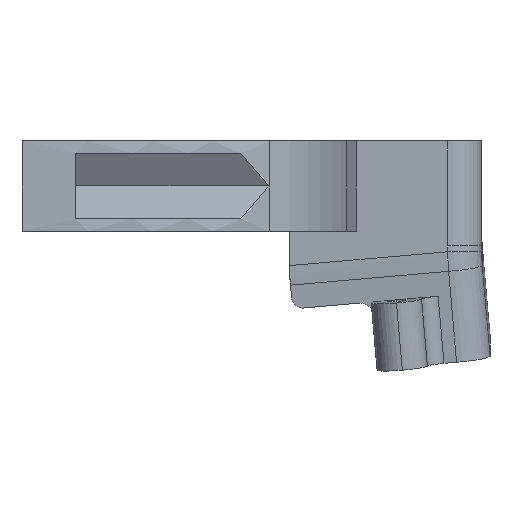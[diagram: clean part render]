
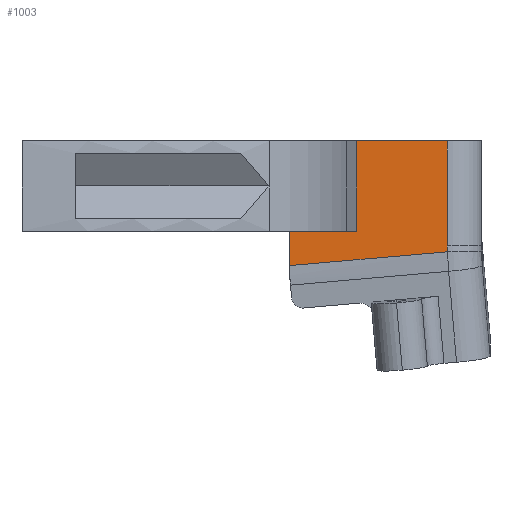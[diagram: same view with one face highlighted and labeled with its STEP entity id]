
A CAD part, front view. The second image highlights one B-rep face of the part: STEP entity #1003.
In plain terms, the highlighted planar face has unit normal (0, -1, 0).
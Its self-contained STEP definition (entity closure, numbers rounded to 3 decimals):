
#5 = VECTOR ( 'NONE', #3421, 1000. ) ;
#22 = CARTESIAN_POINT ( 'NONE',  ( 38., -14., -5.489 ) ) ;
#131 =( BOUNDED_CURVE ( )  B_SPLINE_CURVE ( 3, ( #3930, #22, #2548, #3573 ),
 .UNSPECIFIED., .F., .T. ) 
 B_SPLINE_CURVE_WITH_KNOTS ( ( 4, 4 ),
 ( 1.571, 1.594 ),
 .UNSPECIFIED. ) 
 CURVE ( )  GEOMETRIC_REPRESENTATION_ITEM ( )  RATIONAL_B_SPLINE_CURVE ( ( 1., 1., 1., 1. ) ) 
 REPRESENTATION_ITEM ( '' )  );
#171 = CARTESIAN_POINT ( 'NONE',  ( 24., -14., -4. ) ) ;
#240 = AXIS2_PLACEMENT_3D ( 'NONE', #856, #2916, #1153 ) ;
#284 = DIRECTION ( 'NONE',  ( 0., 0., 1. ) ) ;
#445 = VERTEX_POINT ( 'NONE', #2879 ) ;
#528 = VECTOR ( 'NONE', #3601, 1000. ) ;
#546 = VECTOR ( 'NONE', #284, 1000. ) ;
#654 = EDGE_CURVE ( 'NONE', #1206, #2873, #1064, .T. ) ;
#662 = VECTOR ( 'NONE', #3219, 1000. ) ;
#682 = EDGE_CURVE ( 'NONE', #2009, #3889, #3087, .T. ) ;
#836 = ORIENTED_EDGE ( 'NONE', *, *, #2018, .F. ) ;
#856 = CARTESIAN_POINT ( 'NONE',  ( 41., -14., -6.45 ) ) ;
#943 = LINE ( 'NONE', #4120, #546 ) ;
#1003 = ADVANCED_FACE ( 'NONE', ( #2469 ), #2509, .F. ) ;
#1064 = LINE ( 'NONE', #4503, #2732 ) ;
#1083 = CARTESIAN_POINT ( 'NONE',  ( 38., -14., 4. ) ) ;
#1153 = DIRECTION ( 'NONE',  ( 0., 0., -1. ) ) ;
#1167 = EDGE_CURVE ( 'NONE', #445, #2614, #4441, .T. ) ;
#1206 = VERTEX_POINT ( 'NONE', #1083 ) ;
#1297 = EDGE_CURVE ( 'NONE', #1206, #3433, #2200, .T. ) ;
#1353 = CARTESIAN_POINT ( 'NONE',  ( 40.924, -14., -5.583 ) ) ;
#1429 = ORIENTED_EDGE ( 'NONE', *, *, #654, .T. ) ;
#1508 = CARTESIAN_POINT ( 'NONE',  ( 38., -14., -5.314 ) ) ;
#1727 = DIRECTION ( 'NONE',  ( -1., 0., 0. ) ) ;
#1906 = ORIENTED_EDGE ( 'NONE', *, *, #1297, .F. ) ;
#2009 = VERTEX_POINT ( 'NONE', #2265 ) ;
#2018 = EDGE_CURVE ( 'NONE', #445, #2873, #3008, .T. ) ;
#2074 = ORIENTED_EDGE ( 'NONE', *, *, #3186, .F. ) ;
#2200 = LINE ( 'NONE', #4005, #528 ) ;
#2243 = VECTOR ( 'NONE', #3662, 1000. ) ;
#2265 = CARTESIAN_POINT ( 'NONE',  ( 38.006, -14., -5.838 ) ) ;
#2469 = FACE_OUTER_BOUND ( 'NONE', #2549, .T. ) ;
#2509 = PLANE ( 'NONE',  #240 ) ;
#2548 = CARTESIAN_POINT ( 'NONE',  ( 38.002, -14., -5.664 ) ) ;
#2549 = EDGE_LOOP ( 'NONE', ( #1429, #836, #3880, #2074, #4201, #2982, #1906 ) ) ;
#2614 = VERTEX_POINT ( 'NONE', #171 ) ;
#2732 = VECTOR ( 'NONE', #1727, 1000. ) ;
#2858 = CARTESIAN_POINT ( 'NONE',  ( 24., -14., -7.064 ) ) ;
#2873 = VERTEX_POINT ( 'NONE', #2919 ) ;
#2879 = CARTESIAN_POINT ( 'NONE',  ( 29.959, -14., -4. ) ) ;
#2916 = DIRECTION ( 'NONE',  ( 0., 1., 0. ) ) ;
#2919 = CARTESIAN_POINT ( 'NONE',  ( 29.959, -14., 4. ) ) ;
#2982 = ORIENTED_EDGE ( 'NONE', *, *, #3770, .F. ) ;
#3008 = LINE ( 'NONE', #3265, #2243 ) ;
#3087 = LINE ( 'NONE', #1353, #662 ) ;
#3186 = EDGE_CURVE ( 'NONE', #3889, #2614, #943, .T. ) ;
#3219 = DIRECTION ( 'NONE',  ( -0.996, 0., -0.087 ) ) ;
#3265 = CARTESIAN_POINT ( 'NONE',  ( 29.959, -14., -4. ) ) ;
#3421 = DIRECTION ( 'NONE',  ( -1., 0., 0. ) ) ;
#3433 = VERTEX_POINT ( 'NONE', #1508 ) ;
#3573 = CARTESIAN_POINT ( 'NONE',  ( 38.006, -14., -5.838 ) ) ;
#3601 = DIRECTION ( 'NONE',  ( 0., 0., -1. ) ) ;
#3662 = DIRECTION ( 'NONE',  ( 0., 0., 1. ) ) ;
#3770 = EDGE_CURVE ( 'NONE', #3433, #2009, #131, .T. ) ;
#3880 = ORIENTED_EDGE ( 'NONE', *, *, #1167, .T. ) ;
#3889 = VERTEX_POINT ( 'NONE', #2858 ) ;
#3930 = CARTESIAN_POINT ( 'NONE',  ( 38., -14., -5.314 ) ) ;
#4005 = CARTESIAN_POINT ( 'NONE',  ( 38., -14., -6.45 ) ) ;
#4120 = CARTESIAN_POINT ( 'NONE',  ( 24., -14., -6.45 ) ) ;
#4201 = ORIENTED_EDGE ( 'NONE', *, *, #682, .F. ) ;
#4393 = CARTESIAN_POINT ( 'NONE',  ( 0., -14., -4. ) ) ;
#4441 = LINE ( 'NONE', #4393, #5 ) ;
#4503 = CARTESIAN_POINT ( 'NONE',  ( 41., -14., 4. ) ) ;
